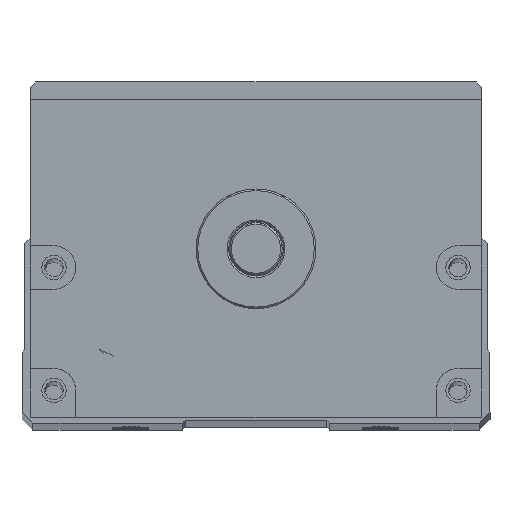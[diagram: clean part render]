
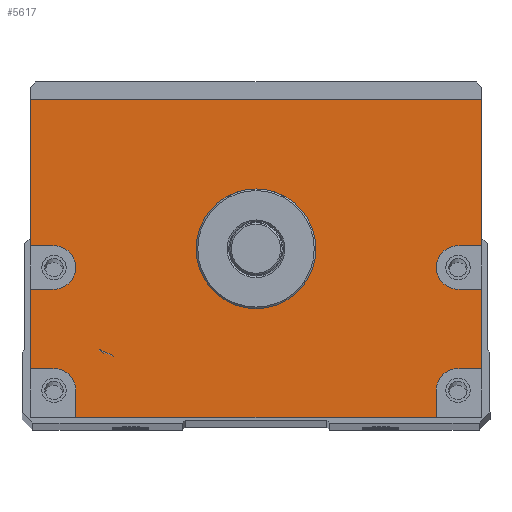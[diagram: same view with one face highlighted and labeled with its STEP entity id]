
A CAD part, top view. The second image highlights one B-rep face of the part: STEP entity #5617.
In plain terms, the highlighted planar face has unit normal (0, 0, 1).
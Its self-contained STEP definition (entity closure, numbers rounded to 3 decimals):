
#604=LINE('',#27269,#1321);
#606=LINE('',#27277,#1323);
#607=LINE('',#27280,#1324);
#608=LINE('',#27282,#1325);
#609=LINE('',#27286,#1326);
#610=LINE('',#27288,#1327);
#611=LINE('',#27289,#1328);
#612=LINE('',#27291,#1329);
#613=LINE('',#27295,#1330);
#614=LINE('',#27297,#1331);
#615=LINE('',#27299,#1332);
#616=LINE('',#27303,#1333);
#617=LINE('',#27305,#1334);
#618=LINE('',#27307,#1335);
#1321=VECTOR('',#15600,1.);
#1323=VECTOR('',#15608,1.);
#1324=VECTOR('',#15609,1.);
#1325=VECTOR('',#15610,1.);
#1326=VECTOR('',#15613,1.);
#1327=VECTOR('',#15614,1.);
#1328=VECTOR('',#15615,1.);
#1329=VECTOR('',#15616,1.);
#1330=VECTOR('',#15619,1.);
#1331=VECTOR('',#15620,1.);
#1332=VECTOR('',#15621,1.);
#1333=VECTOR('',#15624,1.);
#1334=VECTOR('',#15625,1.);
#1335=VECTOR('',#15626,1.);
#5075=FACE_BOUND('',#7115,.T.);
#5076=FACE_BOUND('',#7116,.T.);
#5617=ADVANCED_FACE('',(#5075,#5076),#6147,.T.);
#6147=PLANE('',#14013);
#7115=EDGE_LOOP('',(#8673,#8674,#8675,#8676,#8677,#8678,#8679,#8680,#8681,
#8682,#8683,#8684,#8685,#8686,#8687,#8688,#8689,#8690));
#7116=EDGE_LOOP('',(#8691));
#8673=ORIENTED_EDGE('',*,*,#12220,.F.);
#8674=ORIENTED_EDGE('',*,*,#12221,.T.);
#8675=ORIENTED_EDGE('',*,*,#12222,.F.);
#8676=ORIENTED_EDGE('',*,*,#12223,.F.);
#8677=ORIENTED_EDGE('',*,*,#12224,.F.);
#8678=ORIENTED_EDGE('',*,*,#12225,.T.);
#8679=ORIENTED_EDGE('',*,*,#12216,.T.);
#8680=ORIENTED_EDGE('',*,*,#12226,.T.);
#8681=ORIENTED_EDGE('',*,*,#12227,.F.);
#8682=ORIENTED_EDGE('',*,*,#12228,.F.);
#8683=ORIENTED_EDGE('',*,*,#12229,.F.);
#8684=ORIENTED_EDGE('',*,*,#12230,.T.);
#8685=ORIENTED_EDGE('',*,*,#12231,.F.);
#8686=ORIENTED_EDGE('',*,*,#12232,.F.);
#8687=ORIENTED_EDGE('',*,*,#12233,.F.);
#8688=ORIENTED_EDGE('',*,*,#12234,.T.);
#8689=ORIENTED_EDGE('',*,*,#12235,.F.);
#8690=ORIENTED_EDGE('',*,*,#12236,.F.);
#8691=ORIENTED_EDGE('',*,*,#12202,.T.);
#11014=VERTEX_POINT('',#27240);
#11027=VERTEX_POINT('',#27268);
#11028=VERTEX_POINT('',#27270);
#11031=VERTEX_POINT('',#27278);
#11032=VERTEX_POINT('',#27279);
#11033=VERTEX_POINT('',#27281);
#11034=VERTEX_POINT('',#27283);
#11035=VERTEX_POINT('',#27285);
#11036=VERTEX_POINT('',#27287);
#11037=VERTEX_POINT('',#27290);
#11038=VERTEX_POINT('',#27292);
#11039=VERTEX_POINT('',#27294);
#11040=VERTEX_POINT('',#27296);
#11041=VERTEX_POINT('',#27298);
#11042=VERTEX_POINT('',#27300);
#11043=VERTEX_POINT('',#27302);
#11044=VERTEX_POINT('',#27304);
#11045=VERTEX_POINT('',#27306);
#11046=VERTEX_POINT('',#27308);
#12202=EDGE_CURVE('',#11014,#11014,#13363,.T.);
#12216=EDGE_CURVE('',#11028,#11027,#604,.T.);
#12220=EDGE_CURVE('',#11031,#11032,#606,.T.);
#12221=EDGE_CURVE('',#11031,#11033,#607,.T.);
#12222=EDGE_CURVE('',#11034,#11033,#608,.T.);
#12223=EDGE_CURVE('',#11035,#11034,#13374,.T.);
#12224=EDGE_CURVE('',#11036,#11035,#609,.T.);
#12225=EDGE_CURVE('',#11036,#11028,#610,.T.);
#12226=EDGE_CURVE('',#11027,#11037,#611,.T.);
#12227=EDGE_CURVE('',#11038,#11037,#612,.T.);
#12228=EDGE_CURVE('',#11039,#11038,#13375,.T.);
#12229=EDGE_CURVE('',#11040,#11039,#613,.T.);
#12230=EDGE_CURVE('',#11040,#11041,#614,.T.);
#12231=EDGE_CURVE('',#11042,#11041,#615,.T.);
#12232=EDGE_CURVE('',#11043,#11042,#13376,.T.);
#12233=EDGE_CURVE('',#11044,#11043,#616,.T.);
#12234=EDGE_CURVE('',#11044,#11045,#617,.T.);
#12235=EDGE_CURVE('',#11046,#11045,#618,.T.);
#12236=EDGE_CURVE('',#11032,#11046,#13377,.T.);
#13363=CIRCLE('',#13995,11.);
#13374=CIRCLE('',#14009,4.);
#13375=CIRCLE('',#14010,4.);
#13376=CIRCLE('',#14011,4.);
#13377=CIRCLE('',#14012,4.);
#13995=AXIS2_PLACEMENT_3D('',#27239,#15573,#15574);
#14009=AXIS2_PLACEMENT_3D('',#27284,#15611,#15612);
#14010=AXIS2_PLACEMENT_3D('',#27293,#15617,#15618);
#14011=AXIS2_PLACEMENT_3D('',#27301,#15622,#15623);
#14012=AXIS2_PLACEMENT_3D('',#27309,#15627,#15628);
#14013=AXIS2_PLACEMENT_3D('',#27310,#15629,#15630);
#15573=DIRECTION('',(0.,0.,-1.));
#15574=DIRECTION('',(1.,0.,0.));
#15600=DIRECTION('',(-1.,0.,0.));
#15608=DIRECTION('',(-1.,0.,0.));
#15609=DIRECTION('',(0.,1.,0.));
#15610=DIRECTION('',(1.,0.,0.));
#15611=DIRECTION('',(0.,0.,1.));
#15612=DIRECTION('',(1.,0.,0.));
#15613=DIRECTION('',(-1.,0.,0.));
#15614=DIRECTION('',(0.,1.,0.));
#15615=DIRECTION('',(0.,-1.,0.));
#15616=DIRECTION('',(-1.,0.,0.));
#15617=DIRECTION('',(0.,0.,1.));
#15618=DIRECTION('',(1.,0.,0.));
#15619=DIRECTION('',(1.,0.,0.));
#15620=DIRECTION('',(0.,-1.,0.));
#15621=DIRECTION('',(-1.,0.,0.));
#15622=DIRECTION('',(0.,0.,1.));
#15623=DIRECTION('',(1.,0.,0.));
#15624=DIRECTION('',(0.,1.,0.));
#15625=DIRECTION('',(1.,0.,0.));
#15626=DIRECTION('',(0.,-1.,0.));
#15627=DIRECTION('',(0.,0.,1.));
#15628=DIRECTION('',(1.,0.,0.));
#15629=DIRECTION('',(0.,0.,1.));
#15630=DIRECTION('',(1.,0.,0.));
#27239=CARTESIAN_POINT('',(150.,0.,582.5));
#27240=CARTESIAN_POINT('',(161.,0.,582.5));
#27268=CARTESIAN_POINT('',(108.5,27.5,582.5));
#27269=CARTESIAN_POINT('',(191.5,27.5,582.5));
#27270=CARTESIAN_POINT('',(191.5,27.5,582.5));
#27277=CARTESIAN_POINT('',(191.5,-22.,582.5));
#27278=CARTESIAN_POINT('',(191.5,-22.,582.5));
#27279=CARTESIAN_POINT('',(187.115,-22.,582.5));
#27280=CARTESIAN_POINT('',(191.5,-31.,582.5));
#27281=CARTESIAN_POINT('',(191.5,-7.431,582.5));
#27282=CARTESIAN_POINT('',(191.5,-7.431,582.5));
#27283=CARTESIAN_POINT('',(187.115,-7.431,582.5));
#27284=CARTESIAN_POINT('',(187.115,-3.431,582.5));
#27285=CARTESIAN_POINT('',(187.115,0.569,582.5));
#27286=CARTESIAN_POINT('',(191.5,0.569,582.5));
#27287=CARTESIAN_POINT('',(191.5,0.569,582.5));
#27288=CARTESIAN_POINT('',(191.5,-31.,582.5));
#27289=CARTESIAN_POINT('',(108.5,27.5,582.5));
#27290=CARTESIAN_POINT('',(108.5,0.569,582.5));
#27291=CARTESIAN_POINT('',(191.5,0.569,582.5));
#27292=CARTESIAN_POINT('',(112.885,0.569,582.5));
#27293=CARTESIAN_POINT('',(112.885,-3.431,582.5));
#27294=CARTESIAN_POINT('',(112.885,-7.431,582.5));
#27295=CARTESIAN_POINT('',(191.5,-7.431,582.5));
#27296=CARTESIAN_POINT('',(108.5,-7.431,582.5));
#27297=CARTESIAN_POINT('',(108.5,27.5,582.5));
#27298=CARTESIAN_POINT('',(108.5,-22.,582.5));
#27299=CARTESIAN_POINT('',(191.5,-22.,582.5));
#27300=CARTESIAN_POINT('',(112.885,-22.,582.5));
#27301=CARTESIAN_POINT('',(112.885,-26.,582.5));
#27302=CARTESIAN_POINT('',(116.885,-26.,582.5));
#27303=CARTESIAN_POINT('',(116.885,-31.,582.5));
#27304=CARTESIAN_POINT('',(116.885,-31.,582.5));
#27305=CARTESIAN_POINT('',(108.5,-31.,582.5));
#27306=CARTESIAN_POINT('',(183.115,-31.,582.5));
#27307=CARTESIAN_POINT('',(183.115,-31.,582.5));
#27308=CARTESIAN_POINT('',(183.115,-26.,582.5));
#27309=CARTESIAN_POINT('',(187.115,-26.,582.5));
#27310=CARTESIAN_POINT('',(191.5,-31.,582.5));
